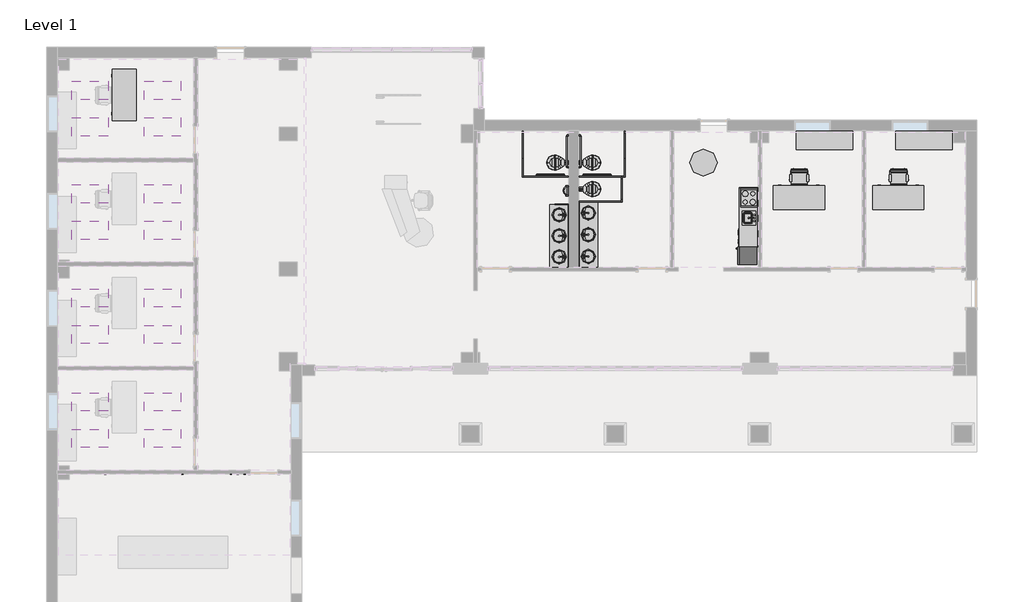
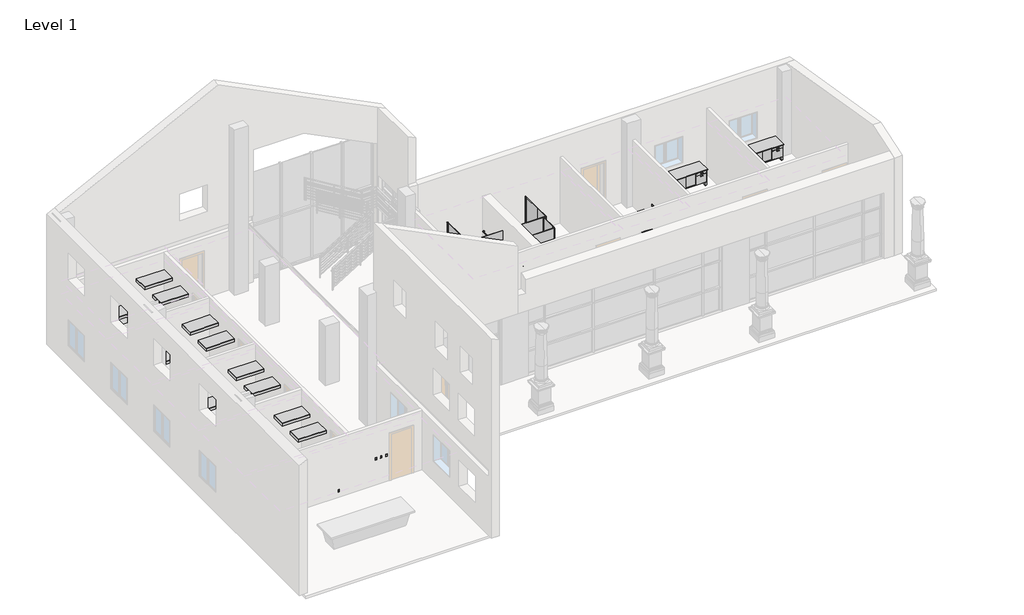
# One storey, part 8 of 8: 29 proxies, 16 light fixtures, 11 flow terminals, 11 furniture elements.
"""IFC4 building model written with IfcOpenShell, lengths in millimetres."""

from ifc_helpers import new_model, si_unit, origin, place, context, project, spatial, transform, mapped, element, save
from components import specialty_equipment_fe47f8b8, specialty_equipment_a66543ee, specialty_equipment_0732ba0f, proxy_75c98dfb, proxy_14d97774, proxy_deb97b80, proxy_a6faaae8, proxy_45b28599, grab_bar_3d_grab_bar_3d_00f4341b, grab_bar_3d_grab_bar_3d_a3ed3e83, kitchenette_medium_kitchenette_medium_844211aa, outlet_duplex_single_b6c2167a, proxy_c523a7b7, switch_single_single_f7a742c7, flow_terminal_871c2e40, flow_terminal_5184717d, flow_terminal_4f17df5f, flow_terminal_f7b7a87d, urinal_wall_3d_urinal_wall_3d_b67806af, chair_task_arms_chair_task_arms_3b363349, furniture_c6510c7c, furniture_b8c66f15, furniture_0f6f437d, furniture_7b927048, furniture_bcdaa455, furniture_9d33da18, furniture_905aceb5, troffer_light_2x4_parabolic_2_x4_2_lamp_120v_ca384779

model = new_model("IFC4")

# Units and contexts
model_context = context("Model", 3, world=origin())
ifc_project = project(units=[si_unit("LENGTHUNIT", "METRE", prefix="MILLI")], contexts=[model_context])

# Site, building, storey
site = spatial("IfcSite", under=ifc_project)
building = spatial("IfcBuilding", under=site)
storey = spatial("IfcBuildingStorey", under=building, Name="Level 1", Elevation=0.0)

# Proxies
placement = place(None, origin())
specialty_equipment_shape = specialty_equipment_fe47f8b8(model_context)
element("IfcBuildingElementProxy", 1, Name="Dispencer-Toilet Paper-2D : Dispencer-Toilet Paper-2D", ObjectType="Dispencer-Toilet Paper-2D : Dispencer-Toilet Paper-2D", at=placement, inside=storey, context=model_context, shape_type="MappedRepresentation", body=[
    mapped(specialty_equipment_shape, transform((3856.5733448, 6606.3605424, 0.0), x_axis=(0.0, -1.0, 0.0), y_axis=(1.0, 0.0, 0.0), z_axis=(0.0, 0.0, 1.0))),
])
specialty_equipment_2_shape = specialty_equipment_a66543ee(model_context)
element("IfcBuildingElementProxy", 2, Name="Dispencer-Toilet Paper-2D : Dispencer-Toilet Paper-2D", ObjectType="Dispencer-Toilet Paper-2D : Dispencer-Toilet Paper-2D", at=placement, inside=storey, context=model_context, shape_type="MappedRepresentation", body=[
    mapped(specialty_equipment_2_shape, transform((3513.6733448, 6606.3605424, 0.0), x_axis=(0.0, -1.0, 0.0), y_axis=(1.0, 0.0, 0.0), z_axis=(0.0, 0.0, 1.0))),
])
element("IfcBuildingElementProxy", 3, Name="Dispencer-Toilet Paper-2D : Dispencer-Toilet Paper-2D", ObjectType="Dispencer-Toilet Paper-2D : Dispencer-Toilet Paper-2D", at=placement, inside=storey, context=model_context, shape_type="MappedRepresentation", body=[
    mapped(specialty_equipment_2_shape, transform((3856.5733448, 6580.9605424, 0.0), x_axis=(0.0, 1.0, 0.0), y_axis=(-1.0, 0.0, 0.0), z_axis=(0.0, 0.0, 1.0))),
])
specialty_equipment_3_shape = specialty_equipment_0732ba0f(model_context)
element("IfcBuildingElementProxy", 4, Name="Urinal Screen-3D w Urinal : 36\" O.C.", ObjectType="Urinal Screen-3D w Urinal : 36\" O.C.", at=placement, inside=storey, context=model_context, shape_type="MappedRepresentation", body=[
    mapped(specialty_equipment_3_shape, transform((3685.1233448, 5666.5605424, 0.0), x_axis=(0.0, 1.0, 0.0), y_axis=(-1.0, 0.0, 0.0), z_axis=(0.0, 0.0, 1.0))),
])
proxy_shape = proxy_75c98dfb(model_context)
element("IfcBuildingElementProxy", 5, Name="Toilet Stall-3D w Toilet : 32\" x 56\" Clear", ObjectType="Toilet Stall-3D w Toilet : 32\" x 56\" Clear", at=placement, inside=storey, context=model_context, shape_type="MappedRepresentation", body=[
    mapped(proxy_shape, transform((3685.1233448, 5769.6573886, 0.0), x_axis=(0.0, 1.0, 0.0), y_axis=(-1.0, 0.0, 0.0), z_axis=(0.0, 0.0, 1.0))),
])
proxy_2_shape = proxy_14d97774(model_context)
element("IfcBuildingElementProxy", 6, Name="Toilet Stall-Accessible-Front-3D w Toilet : 60\" x 60\" Clear", ObjectType="Toilet Stall-Accessible-Front-3D w Toilet : 60\" x 60\" Clear", at=placement, inside=storey, context=model_context, shape_type="MappedRepresentation", body=[
    mapped(proxy_2_shape, transform((3685.1233448, 6658.6573886, 0.0), x_axis=(0.0, 1.0, 0.0), y_axis=(-1.0, 0.0, 0.0), z_axis=(0.0, 0.0, 1.0))),
])
proxy_3_shape = proxy_deb97b80(model_context)
element("IfcBuildingElementProxy", 7, Name="Toilet Stall-Accessible-Front-3D w Toilet : 60\" x 60\" Clear", ObjectType="Toilet Stall-Accessible-Front-3D w Toilet : 60\" x 60\" Clear", at=placement, inside=storey, context=model_context, shape_type="MappedRepresentation", body=[
    mapped(proxy_3_shape, transform((3685.1233448, 6658.6573886, 0.0), x_axis=(0.0, 1.0, 0.0), y_axis=(-1.0, 0.0, 0.0), z_axis=(0.0, 0.0, 1.0))),
])
proxy_4_shape = proxy_a6faaae8(model_context)
element("IfcBuildingElementProxy", 8, Name="Cook Top-4 Unit2 : 22\" x 20\"", ObjectType="Cook Top-4 Unit2 : 22\" x 20\"", at=placement, inside=storey, context=model_context, shape_type="MappedRepresentation", body=[
    mapped(proxy_4_shape, transform((9542.9983448, 5882.4605424, 0.0), x_axis=(0.0, -1.0, 0.0), y_axis=(1.0, 0.0, 0.0), z_axis=(0.0, 0.0, 1.0))),
])
proxy_5_shape = proxy_45b28599(model_context)
element("IfcBuildingElementProxy", 9, Name="Dishwasher : 24\" x 24\" x 34\"", ObjectType="Dishwasher : 24\" x 24\" x 34\"", at=placement, inside=storey, context=model_context, shape_type="MappedRepresentation", body=[
    mapped(proxy_5_shape, transform((9251.14878, 4931.2780109, 0.0), x_axis=(0.0, -1.0, 0.0), y_axis=(1.0, 0.0, 0.0), z_axis=(0.0, 0.0, 1.0))),
])
grab_bar_3d_grab_bar_3d_shape = grab_bar_3d_grab_bar_3d_00f4341b(model_context)
element("IfcBuildingElementProxy", 10, Name="Grab Bar-3D : Grab Bar-3D", ObjectType="Grab Bar-3D : Grab Bar-3D", at=placement, inside=storey, context=model_context, shape_type="MappedRepresentation", body=[
    mapped(grab_bar_3d_grab_bar_3d_shape, transform((3513.6733448, 6606.3605424, 0.0), x_axis=(1.0, 0.0, 0.0), y_axis=(0.0, 1.0, 0.0), z_axis=(0.0, 0.0, 1.0))),
])
grab_bar_3d_grab_bar_3d_2_shape = grab_bar_3d_grab_bar_3d_a3ed3e83(model_context)
element("IfcBuildingElementProxy", 11, Name="Grab Bar-3D : Grab Bar-3D", ObjectType="Grab Bar-3D : Grab Bar-3D", at=placement, inside=storey, context=model_context, shape_type="MappedRepresentation", body=[
    mapped(grab_bar_3d_grab_bar_3d_2_shape, transform((3856.5733448, 6606.3605424, 0.0), x_axis=(-1.0, 0.0, 0.0), y_axis=(0.0, -1.0, 0.0), z_axis=(0.0, 0.0, 1.0))),
])
kitchenette_medium_kitchenette_medium_shape = kitchenette_medium_kitchenette_medium_844211aa(model_context)
element("IfcBuildingElementProxy", 12, Name="Kitchenette - Medium : Kitchenette - Medium", ObjectType="Kitchenette - Medium : Kitchenette - Medium", at=placement, inside=storey, context=model_context, shape_type="MappedRepresentation", body=[
    mapped(kitchenette_medium_kitchenette_medium_shape, transform((9847.7983448, 5558.2982474, 0.0), x_axis=(0.0, -1.0, 0.0), y_axis=(1.0, 0.0, 0.0), z_axis=(0.0, 0.0, 1.0))),
])
outlet_duplex_single_shape = outlet_duplex_single_b6c2167a(model_context)
element("IfcBuildingElementProxy", 13, Name="Outlet-Duplex : Single", ObjectType="Outlet-Duplex : Single", at=placement, inside=storey, context=model_context, shape_type="MappedRepresentation", body=[
    mapped(outlet_duplex_single_shape, transform((-11923.1766552, 186.5105424, 0.0), x_axis=(-1.0, 0.0, 0.0), y_axis=(0.0, -1.0, 0.0), z_axis=(0.0, 0.0, 1.0))),
])
element("IfcBuildingElementProxy", 14, Name="Outlet-Duplex : Single", ObjectType="Outlet-Duplex : Single", at=placement, inside=storey, context=model_context, shape_type="MappedRepresentation", body=[
    mapped(outlet_duplex_single_shape, transform((-11923.1766552, 3667.8980424, 0.0), x_axis=(-1.0, 0.0, 0.0), y_axis=(0.0, -1.0, 0.0), z_axis=(0.0, 0.0, 1.0))),
])
element("IfcBuildingElementProxy", 15, Name="Outlet-Duplex : Single", ObjectType="Outlet-Duplex : Single", at=placement, inside=storey, context=model_context, shape_type="MappedRepresentation", body=[
    mapped(outlet_duplex_single_shape, transform((-11948.5766552, 7149.2855424, 0.0), x_axis=(-1.0, 0.0, 0.0), y_axis=(0.0, -1.0, 0.0), z_axis=(0.0, 0.0, 1.0))),
])
element("IfcBuildingElementProxy", 16, Name="Outlet-Duplex : Single", ObjectType="Outlet-Duplex : Single", at=placement, inside=storey, context=model_context, shape_type="MappedRepresentation", body=[
    mapped(outlet_duplex_single_shape, transform((-8949.7891552, 9397.9792924, 0.0), x_axis=(0.0, 1.0, 0.0), y_axis=(-1.0, 0.0, 0.0), z_axis=(0.0, 0.0, 1.0))),
])
element("IfcBuildingElementProxy", 17, Name="Outlet-Duplex : Single", ObjectType="Outlet-Duplex : Single", at=placement, inside=storey, context=model_context, shape_type="MappedRepresentation", body=[
    mapped(outlet_duplex_single_shape, transform((-8949.7891552, 5941.9917924, 0.0), x_axis=(0.0, 1.0, 0.0), y_axis=(-1.0, 0.0, 0.0), z_axis=(0.0, 0.0, 1.0))),
])
element("IfcBuildingElementProxy", 18, Name="Outlet-Duplex : Single", ObjectType="Outlet-Duplex : Single", at=placement, inside=storey, context=model_context, shape_type="MappedRepresentation", body=[
    mapped(outlet_duplex_single_shape, transform((-8949.7891552, 2462.9855424, 0.0), x_axis=(0.0, 1.0, 0.0), y_axis=(-1.0, 0.0, 0.0), z_axis=(0.0, 0.0, 1.0))),
])
element("IfcBuildingElementProxy", 19, Name="Outlet-Duplex : Single", ObjectType="Outlet-Duplex : Single", at=placement, inside=storey, context=model_context, shape_type="MappedRepresentation", body=[
    mapped(outlet_duplex_single_shape, transform((-8949.7891552, -1020.7832076, 0.0), x_axis=(0.0, 1.0, 0.0), y_axis=(-1.0, 0.0, 0.0), z_axis=(0.0, 0.0, 1.0))),
])
element("IfcBuildingElementProxy", 20, Name="Outlet-Duplex : Single", ObjectType="Outlet-Duplex : Single", at=placement, inside=storey, context=model_context, shape_type="MappedRepresentation", body=[
    mapped(outlet_duplex_single_shape, transform((-11973.9766552, -3294.8769576, 0.0), x_axis=(-1.0, 0.0, 0.0), y_axis=(0.0, -1.0, 0.0), z_axis=(0.0, 0.0, 1.0))),
])
element("IfcBuildingElementProxy", 21, Name="Outlet-Duplex : Single", ObjectType="Outlet-Duplex : Single", at=placement, inside=storey, context=model_context, shape_type="MappedRepresentation", body=[
    mapped(outlet_duplex_single_shape, transform((-9402.2266552, -3294.8769576, 0.0), x_axis=(-1.0, 0.0, 0.0), y_axis=(0.0, -1.0, 0.0), z_axis=(0.0, 0.0, 1.0))),
])
proxy_6_shape = proxy_c523a7b7(model_context)
element("IfcBuildingElementProxy", 22, Name="Refrigerator : 24\" x 25\" LH", ObjectType="Refrigerator : 24\" x 25\" LH", at=placement, inside=storey, context=model_context, shape_type="MappedRepresentation", body=[
    mapped(proxy_6_shape, transform((9497.3493733, 3945.7105424, 0.0), x_axis=(0.0, -1.0, 0.0), y_axis=(1.0, 0.0, 0.0), z_axis=(0.0, 0.0, 1.0))),
])
switch_single_single_shape = switch_single_single_f7a742c7(model_context)
element("IfcBuildingElementProxy", 23, Name="Switch-Single : Single", ObjectType="Switch-Single : Single", at=placement, inside=storey, context=model_context, shape_type="MappedRepresentation", body=[
    mapped(switch_single_single_shape, transform((-8949.7891552, 1507.3105424, 0.0), x_axis=(0.0, 1.0, 0.0), y_axis=(-1.0, 0.0, 0.0), z_axis=(0.0, 0.0, 1.0))),
])
element("IfcBuildingElementProxy", 24, Name="Switch-Single : Single", ObjectType="Switch-Single : Single", at=placement, inside=storey, context=model_context, shape_type="MappedRepresentation", body=[
    mapped(switch_single_single_shape, transform((-8949.7891552, -1978.8394576, 0.0), x_axis=(0.0, 1.0, 0.0), y_axis=(-1.0, 0.0, 0.0), z_axis=(0.0, 0.0, 1.0))),
])
element("IfcBuildingElementProxy", 25, Name="Switch-Single : Single", ObjectType="Switch-Single : Single", at=placement, inside=storey, context=model_context, shape_type="MappedRepresentation", body=[
    mapped(switch_single_single_shape, transform((-8949.7891552, 4983.9355424, 0.0), x_axis=(0.0, 1.0, 0.0), y_axis=(-1.0, 0.0, 0.0), z_axis=(0.0, 0.0, 1.0))),
])
element("IfcBuildingElementProxy", 26, Name="Switch-Single : Single", ObjectType="Switch-Single : Single", at=placement, inside=storey, context=model_context, shape_type="MappedRepresentation", body=[
    mapped(switch_single_single_shape, transform((-8949.7891552, 8465.3230424, 0.0), x_axis=(0.0, 1.0, 0.0), y_axis=(-1.0, 0.0, 0.0), z_axis=(0.0, 0.0, 1.0))),
])
element("IfcBuildingElementProxy", 27, Name="Switch-Single : Single", ObjectType="Switch-Single : Single", at=placement, inside=storey, context=model_context, shape_type="MappedRepresentation", body=[
    mapped(switch_single_single_shape, transform((-7313.0766552, -3294.8769576, 0.0), x_axis=(-1.0, 0.0, 0.0), y_axis=(0.0, -1.0, 0.0), z_axis=(0.0, 0.0, 1.0))),
])
element("IfcBuildingElementProxy", 28, Name="Switch-Single : Single", ObjectType="Switch-Single : Single", at=placement, inside=storey, context=model_context, shape_type="MappedRepresentation", body=[
    mapped(switch_single_single_shape, transform((-7541.6766552, -3294.8769576, 0.0), x_axis=(-1.0, 0.0, 0.0), y_axis=(0.0, -1.0, 0.0), z_axis=(0.0, 0.0, 1.0))),
])
element("IfcBuildingElementProxy", 29, Name="Switch-Single : Single", ObjectType="Switch-Single : Single", at=placement, inside=storey, context=model_context, shape_type="MappedRepresentation", body=[
    mapped(switch_single_single_shape, transform((-7770.2766552, -3294.8769576, 0.0), x_axis=(-1.0, 0.0, 0.0), y_axis=(0.0, -1.0, 0.0), z_axis=(0.0, 0.0, 1.0))),
])

# Flow terminals
flow_terminal_shape = flow_terminal_871c2e40(model_context)
element("IfcFlowTerminal", 30, ObjectType="Sink Kitchen-Island : 18\" x 18\"", at=placement, inside=storey, context=model_context, shape_type="MappedRepresentation", body=[
    mapped(flow_terminal_shape, transform((9540.6529437, 5225.049783, -14.4), x_axis=(0.0, -1.0, 0.0), y_axis=(1.0, 0.0, 0.0), z_axis=(0.0, 0.0, 1.0))),
])
flow_terminal_2_shape = flow_terminal_5184717d(model_context)
element("IfcFlowTerminal", 31, ObjectType="Sink Vanity-Round : 19\" x 19\"", at=placement, inside=storey, context=model_context, shape_type="MappedRepresentation", body=[
    mapped(flow_terminal_2_shape, transform((4259.2410633, 5282.0421352, 76.2), x_axis=(0.0, 1.0, 0.0), y_axis=(-1.0, 0.0, 0.0), z_axis=(0.0, 0.0, 1.0))),
])
element("IfcFlowTerminal", 32, ObjectType="Sink Vanity-Round : 19\" x 19\"", at=placement, inside=storey, context=model_context, shape_type="MappedRepresentation", body=[
    mapped(flow_terminal_2_shape, transform((4259.2410633, 3825.7754686, 76.2), x_axis=(0.0, 1.0, 0.0), y_axis=(-1.0, 0.0, 0.0), z_axis=(0.0, 0.0, 1.0))),
])
element("IfcFlowTerminal", 33, ObjectType="Sink Vanity-Round : 19\" x 19\"", at=placement, inside=storey, context=model_context, shape_type="MappedRepresentation", body=[
    mapped(flow_terminal_2_shape, transform((4259.2410633, 4553.9088019, 76.2), x_axis=(0.0, 1.0, 0.0), y_axis=(-1.0, 0.0, 0.0), z_axis=(0.0, 0.0, 1.0))),
])
element("IfcFlowTerminal", 34, ObjectType="Sink Vanity-Round : 19\" x 19\"", at=placement, inside=storey, context=model_context, shape_type="MappedRepresentation", body=[
    mapped(flow_terminal_2_shape, transform((3111.0056263, 4006.3789497, 76.2), x_axis=(0.0, -1.0, 0.0), y_axis=(1.0, 0.0, 0.0), z_axis=(0.0, 0.0, 1.0))),
])
element("IfcFlowTerminal", 35, ObjectType="Sink Vanity-Round : 19\" x 19\"", at=placement, inside=storey, context=model_context, shape_type="MappedRepresentation", body=[
    mapped(flow_terminal_2_shape, transform((3111.0056263, 5411.8456163, 76.2), x_axis=(0.0, -1.0, 0.0), y_axis=(1.0, 0.0, 0.0), z_axis=(0.0, 0.0, 1.0))),
])
element("IfcFlowTerminal", 36, ObjectType="Sink Vanity-Round : 19\" x 19\"", at=placement, inside=storey, context=model_context, shape_type="MappedRepresentation", body=[
    mapped(flow_terminal_2_shape, transform((3111.0056263, 4709.112283, 76.2), x_axis=(0.0, -1.0, 0.0), y_axis=(1.0, 0.0, 0.0), z_axis=(0.0, 0.0, 1.0))),
])
flow_terminal_3_shape = flow_terminal_4f17df5f(model_context)
element("IfcFlowTerminal", 37, ObjectType="Toilet-Commercial-Wall-3D1 : 15\" Seat Height 2", at=placement, inside=storey, context=model_context, shape_type="MappedRepresentation", body=[
    mapped(flow_terminal_3_shape, transform((3685.1233448, 6658.6573886, 0.0), x_axis=(0.0, 1.0, 0.0), y_axis=(-1.0, 0.0, 0.0), z_axis=(0.0, 0.0, 1.0))),
])
flow_terminal_4_shape = flow_terminal_f7b7a87d(model_context)
element("IfcFlowTerminal", 38, ObjectType="Toilet-Commercial-Wall-3D1 : 15\" Seat Height 2", at=placement, inside=storey, context=model_context, shape_type="MappedRepresentation", body=[
    mapped(flow_terminal_4_shape, transform((3685.1233448, 6658.6573886, 0.0), x_axis=(0.0, 1.0, 0.0), y_axis=(-1.0, 0.0, 0.0), z_axis=(0.0, 0.0, 1.0))),
])
element("IfcFlowTerminal", 39, ObjectType="Toilet-Commercial-Wall-3D1 : 15\" Seat Height 2", at=placement, inside=storey, context=model_context, shape_type="MappedRepresentation", body=[
    mapped(flow_terminal_4_shape, transform((3685.1233448, 5769.6573886, 0.0), x_axis=(0.0, 1.0, 0.0), y_axis=(-1.0, 0.0, 0.0), z_axis=(0.0, 0.0, 1.0))),
])
urinal_wall_3d_urinal_wall_3d_shape = urinal_wall_3d_urinal_wall_3d_b67806af(model_context)
element("IfcFlowTerminal", 40, ObjectType="Urinal-Wall-3D : Urinal-Wall-3D", at=placement, inside=storey, context=model_context, shape_type="MappedRepresentation", body=[
    mapped(urinal_wall_3d_urinal_wall_3d_shape, transform((3685.1233448, 6232.8351423, 0.0), x_axis=(0.0, 1.0, 0.0), y_axis=(-1.0, 0.0, 0.0), z_axis=(0.0, 0.0, 1.0))),
])

# Furniture
chair_task_arms_chair_task_arms_shape = chair_task_arms_chair_task_arms_3b363349(model_context)
element("IfcFurniture", 41, ObjectType="Chair-Task Arms : Chair-Task Arms", at=placement, inside=storey, context=model_context, shape_type="MappedRepresentation", body=[
    mapped(chair_task_arms_chair_task_arms_shape, transform((11363.5641645, 6594.7945159, 0.0), x_axis=(-1.0, 0.0, 0.0), y_axis=(0.0, -1.0, 0.0), z_axis=(0.0, 0.0, 1.0))),
])
element("IfcFurniture", 42, ObjectType="Chair-Task Arms : Chair-Task Arms", at=placement, inside=storey, context=model_context, shape_type="MappedRepresentation", body=[
    mapped(chair_task_arms_chair_task_arms_shape, transform((14687.7891645, 6594.7945159, 0.0), x_axis=(-1.0, 0.0, 0.0), y_axis=(0.0, -1.0, 0.0), z_axis=(0.0, 0.0, 1.0))),
])
furniture_shape = furniture_c6510c7c(model_context)
element("IfcFurniture", 43, ObjectType="Counter Top w Sink Hole : 24\" Depth", at=placement, inside=storey, context=model_context, shape_type="MappedRepresentation", body=[
    mapped(furniture_shape, transform((9847.7983448, 5024.8982474, -14.4), x_axis=(0.0, -1.0, 0.0), y_axis=(1.0, 0.0, 0.0), z_axis=(0.0, 0.0, 1.0))),
])
furniture_2_shape = furniture_b8c66f15(model_context)
element("IfcFurniture", 44, ObjectType="Counter Top w Sinks-3D : 96\"", at=placement, inside=storey, context=model_context, shape_type="MappedRepresentation", body=[
    mapped(furniture_2_shape, transform((3685.1233448, 4626.6502386, 0.0), x_axis=(0.0, -1.0, 0.0), y_axis=(1.0, 0.0, 0.0), z_axis=(0.0, 0.0, 1.0))),
])
furniture_3_shape = furniture_0f6f437d(model_context)
element("IfcFurniture", 45, ObjectType="Counter Top w Sinks-3D : 96\"", at=placement, inside=storey, context=model_context, shape_type="MappedRepresentation", body=[
    mapped(furniture_3_shape, transform((3685.1233448, 4674.4708462, 0.0), x_axis=(0.0, 1.0, 0.0), y_axis=(-1.0, 0.0, 0.0), z_axis=(0.0, 0.0, 1.0))),
])
furniture_4_shape = furniture_7b927048(model_context)
element("IfcFurniture", 46, ObjectType="Credenza : 72\" x 24\"", at=placement, inside=storey, context=model_context, shape_type="MappedRepresentation", body=[
    mapped(furniture_4_shape, transform((12004.8699199, 7820.9802146, 0.0), x_axis=(1.0, 0.0, 0.0), y_axis=(0.0, 1.0, 0.0), z_axis=(0.0, 0.0, 1.0))),
])
element("IfcFurniture", 47, ObjectType="Credenza : 72\" x 24\"", at=placement, inside=storey, context=model_context, shape_type="MappedRepresentation", body=[
    mapped(furniture_4_shape, transform((15329.0949199, 7820.9802146, 0.0), x_axis=(1.0, 0.0, 0.0), y_axis=(0.0, 1.0, 0.0), z_axis=(0.0, 0.0, 1.0))),
])
furniture_5_shape = furniture_bcdaa455(model_context)
element("IfcFurniture", 48, ObjectType="Desk1 : 66\" x 30\"", at=placement, inside=storey, context=model_context, shape_type="MappedRepresentation", body=[
    mapped(furniture_5_shape, transform((10371.6733448, 5509.0486143, 0.0), x_axis=(1.0, 0.0, 0.0), y_axis=(0.0, 1.0, 0.0), z_axis=(0.0, 0.0, 1.0))),
])
element("IfcFurniture", 49, ObjectType="Desk1 : 66\" x 30\"", at=placement, inside=storey, context=model_context, shape_type="MappedRepresentation", body=[
    mapped(furniture_5_shape, transform((13695.8983448, 5509.0486143, 0.0), x_axis=(1.0, 0.0, 0.0), y_axis=(0.0, 1.0, 0.0), z_axis=(0.0, 0.0, 1.0))),
])
furniture_6_shape = furniture_9d33da18(model_context)
element("IfcFurniture", 50, ObjectType="Desk1 : 66\" x 30\"", at=placement, inside=storey, context=model_context, shape_type="MappedRepresentation", body=[
    mapped(furniture_6_shape, transform((-10962.389727, 10168.7105424, 0.0), x_axis=(0.0, -1.0, 0.0), y_axis=(1.0, 0.0, 0.0), z_axis=(0.0, 0.0, 1.0))),
])
furniture_7_shape = furniture_905aceb5(model_context)
element("IfcFurniture", 51, ObjectType="Table-Dining Round w Chairs : 36\" Diameter", at=placement, inside=storey, context=model_context, shape_type="MappedRepresentation", body=[
    mapped(furniture_7_shape, transform((7814.9551484, 7120.9752947, 0.0), x_axis=(0.7071067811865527, 0.7071067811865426, 0.0), y_axis=(-0.7071067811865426, 0.7071067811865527, 0.0), z_axis=(0.0, 0.0, 1.0))),
])

# Light fixtures
troffer_light_2x4_parabolic_2_x4_2_lamp_120v_shape = troffer_light_2x4_parabolic_2_x4_2_lamp_120v_ca384779(model_context)
element("IfcLightFixture", 52, ObjectType="Troffer Light - 2x4 Parabolic : 2'x4'(2 Lamp) - 120V", at=placement, inside=storey, context=model_context, shape_type="MappedRepresentation", body=[
    mapped(troffer_light_2x4_parabolic_2_x4_2_lamp_120v_shape, transform((-12472.7981536, 9533.6452245, 0.0), x_axis=(1.0, 0.0, 0.0), y_axis=(0.0, 1.0, 0.0), z_axis=(0.0, 0.0, 1.0))),
])
element("IfcLightFixture", 53, ObjectType="Troffer Light - 2x4 Parabolic : 2'x4'(2 Lamp) - 120V", at=placement, inside=storey, context=model_context, shape_type="MappedRepresentation", body=[
    mapped(troffer_light_2x4_parabolic_2_x4_2_lamp_120v_shape, transform((-10034.3981536, 9533.6452245, 0.0), x_axis=(1.0, 0.0, 0.0), y_axis=(0.0, 1.0, 0.0), z_axis=(0.0, 0.0, 1.0))),
])
element("IfcLightFixture", 54, ObjectType="Troffer Light - 2x4 Parabolic : 2'x4'(2 Lamp) - 120V", at=placement, inside=storey, context=model_context, shape_type="MappedRepresentation", body=[
    mapped(troffer_light_2x4_parabolic_2_x4_2_lamp_120v_shape, transform((-10034.3981536, 8314.4452245, 0.0), x_axis=(1.0, 0.0, 0.0), y_axis=(0.0, 1.0, 0.0), z_axis=(0.0, 0.0, 1.0))),
])
element("IfcLightFixture", 55, ObjectType="Troffer Light - 2x4 Parabolic : 2'x4'(2 Lamp) - 120V", at=placement, inside=storey, context=model_context, shape_type="MappedRepresentation", body=[
    mapped(troffer_light_2x4_parabolic_2_x4_2_lamp_120v_shape, transform((-12472.7981536, 8314.4452245, 0.0), x_axis=(1.0, 0.0, 0.0), y_axis=(0.0, 1.0, 0.0), z_axis=(0.0, 0.0, 1.0))),
])
element("IfcLightFixture", 56, ObjectType="Troffer Light - 2x4 Parabolic : 2'x4'(2 Lamp) - 120V", at=placement, inside=storey, context=model_context, shape_type="MappedRepresentation", body=[
    mapped(troffer_light_2x4_parabolic_2_x4_2_lamp_120v_shape, transform((-12472.7981536, 6077.6577245, 0.0), x_axis=(1.0, 0.0, 0.0), y_axis=(0.0, 1.0, 0.0), z_axis=(0.0, 0.0, 1.0))),
])
element("IfcLightFixture", 57, ObjectType="Troffer Light - 2x4 Parabolic : 2'x4'(2 Lamp) - 120V", at=placement, inside=storey, context=model_context, shape_type="MappedRepresentation", body=[
    mapped(troffer_light_2x4_parabolic_2_x4_2_lamp_120v_shape, transform((-10034.3981536, 6077.6577245, 0.0), x_axis=(1.0, 0.0, 0.0), y_axis=(0.0, 1.0, 0.0), z_axis=(0.0, 0.0, 1.0))),
])
element("IfcLightFixture", 58, ObjectType="Troffer Light - 2x4 Parabolic : 2'x4'(2 Lamp) - 120V", at=placement, inside=storey, context=model_context, shape_type="MappedRepresentation", body=[
    mapped(troffer_light_2x4_parabolic_2_x4_2_lamp_120v_shape, transform((-10034.3981536, 4858.4577245, 0.0), x_axis=(1.0, 0.0, 0.0), y_axis=(0.0, 1.0, 0.0), z_axis=(0.0, 0.0, 1.0))),
])
element("IfcLightFixture", 59, ObjectType="Troffer Light - 2x4 Parabolic : 2'x4'(2 Lamp) - 120V", at=placement, inside=storey, context=model_context, shape_type="MappedRepresentation", body=[
    mapped(troffer_light_2x4_parabolic_2_x4_2_lamp_120v_shape, transform((-12472.7981536, 4858.4577245, 0.0), x_axis=(1.0, 0.0, 0.0), y_axis=(0.0, 1.0, 0.0), z_axis=(0.0, 0.0, 1.0))),
])
element("IfcLightFixture", 60, ObjectType="Troffer Light - 2x4 Parabolic : 2'x4'(2 Lamp) - 120V", at=placement, inside=storey, context=model_context, shape_type="MappedRepresentation", body=[
    mapped(troffer_light_2x4_parabolic_2_x4_2_lamp_120v_shape, transform((-12472.7981536, 2596.2702245, 0.0), x_axis=(1.0, 0.0, 0.0), y_axis=(0.0, 1.0, 0.0), z_axis=(0.0, 0.0, 1.0))),
])
element("IfcLightFixture", 61, ObjectType="Troffer Light - 2x4 Parabolic : 2'x4'(2 Lamp) - 120V", at=placement, inside=storey, context=model_context, shape_type="MappedRepresentation", body=[
    mapped(troffer_light_2x4_parabolic_2_x4_2_lamp_120v_shape, transform((-10034.3981536, 2596.2702245, 0.0), x_axis=(1.0, 0.0, 0.0), y_axis=(0.0, 1.0, 0.0), z_axis=(0.0, 0.0, 1.0))),
])
element("IfcLightFixture", 62, ObjectType="Troffer Light - 2x4 Parabolic : 2'x4'(2 Lamp) - 120V", at=placement, inside=storey, context=model_context, shape_type="MappedRepresentation", body=[
    mapped(troffer_light_2x4_parabolic_2_x4_2_lamp_120v_shape, transform((-10034.3981536, 1377.0702245, 0.0), x_axis=(1.0, 0.0, 0.0), y_axis=(0.0, 1.0, 0.0), z_axis=(0.0, 0.0, 1.0))),
])
element("IfcLightFixture", 63, ObjectType="Troffer Light - 2x4 Parabolic : 2'x4'(2 Lamp) - 120V", at=placement, inside=storey, context=model_context, shape_type="MappedRepresentation", body=[
    mapped(troffer_light_2x4_parabolic_2_x4_2_lamp_120v_shape, transform((-12472.7981536, 1377.0702245, 0.0), x_axis=(1.0, 0.0, 0.0), y_axis=(0.0, 1.0, 0.0), z_axis=(0.0, 0.0, 1.0))),
])
element("IfcLightFixture", 64, ObjectType="Troffer Light - 2x4 Parabolic : 2'x4'(2 Lamp) - 120V", at=placement, inside=storey, context=model_context, shape_type="MappedRepresentation", body=[
    mapped(troffer_light_2x4_parabolic_2_x4_2_lamp_120v_shape, transform((-12472.7981536, -885.1172755, 0.0), x_axis=(1.0, 0.0, 0.0), y_axis=(0.0, 1.0, 0.0), z_axis=(0.0, 0.0, 1.0))),
])
element("IfcLightFixture", 65, ObjectType="Troffer Light - 2x4 Parabolic : 2'x4'(2 Lamp) - 120V", at=placement, inside=storey, context=model_context, shape_type="MappedRepresentation", body=[
    mapped(troffer_light_2x4_parabolic_2_x4_2_lamp_120v_shape, transform((-10034.3981536, -885.1172755, 0.0), x_axis=(1.0, 0.0, 0.0), y_axis=(0.0, 1.0, 0.0), z_axis=(0.0, 0.0, 1.0))),
])
element("IfcLightFixture", 66, ObjectType="Troffer Light - 2x4 Parabolic : 2'x4'(2 Lamp) - 120V", at=placement, inside=storey, context=model_context, shape_type="MappedRepresentation", body=[
    mapped(troffer_light_2x4_parabolic_2_x4_2_lamp_120v_shape, transform((-10034.3981536, -2104.3172755, 0.0), x_axis=(1.0, 0.0, 0.0), y_axis=(0.0, 1.0, 0.0), z_axis=(0.0, 0.0, 1.0))),
])
element("IfcLightFixture", 67, ObjectType="Troffer Light - 2x4 Parabolic : 2'x4'(2 Lamp) - 120V", at=placement, inside=storey, context=model_context, shape_type="MappedRepresentation", body=[
    mapped(troffer_light_2x4_parabolic_2_x4_2_lamp_120v_shape, transform((-12472.7981536, -2104.3172755, 0.0), x_axis=(1.0, 0.0, 0.0), y_axis=(0.0, 1.0, 0.0), z_axis=(0.0, 0.0, 1.0))),
])

save(model, "model.ifc")
